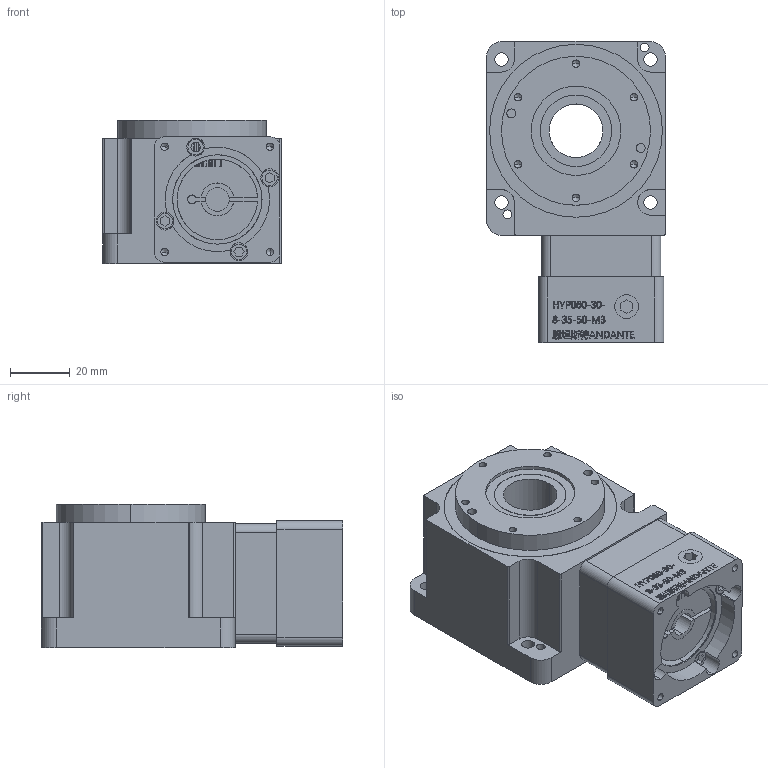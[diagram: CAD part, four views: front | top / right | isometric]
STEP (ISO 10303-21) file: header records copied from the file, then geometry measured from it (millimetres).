
FILE_DESCRIPTION (( 'STEP AP203' ), '1' );
FILE_NAME ('HYP060-30-8-35-50樓綠楊擘.STEP', '2024-07-24T03:35:23', ( 'Windows User' ), ( 'P R C' ), 'SwSTEP 2.0', 'SolidWorks 2016', '' );
FILE_SCHEMA (( 'CONFIG_CONTROL_DESIGN' ));
Length unit declared in the file: millimetre
Products named in the file (3): HYP060-30-8-35-50樓綠楊擘; HYP60-30-M2（8-30-46-M4）_1; HYP60-5-10-MT(配减速机法兰)（8-35-50-M3）
Assembly tree (2 placements, depth 2):
  HYP060-30-8-35-50樓綠楊擘
    HYP60-30-M2（8-30-46-M4）_1
    HYP60-5-10-MT(配减速机法兰)（8-35-50-M3）
Bounding box: 60 x 101 x 48 mm (x, y, z)
Volume: 188426.1 mm3; surface area: 42251.2 mm2
Topology: 20 solids, 21 shells, 1181 faces, 3285 edges, 2166 vertices
Faces by surface type: plane 622, bspline 309, cylinder 214, cone 36
Entity records: 51389 total; most frequent: CARTESIAN_POINT 22549, ORIENTED_EDGE 6514, DIRECTION 4890, EDGE_CURVE 3257, VERTEX_POINT 2166, VECTOR 1942, LINE 1942, AXIS2_PLACEMENT_3D 1474
